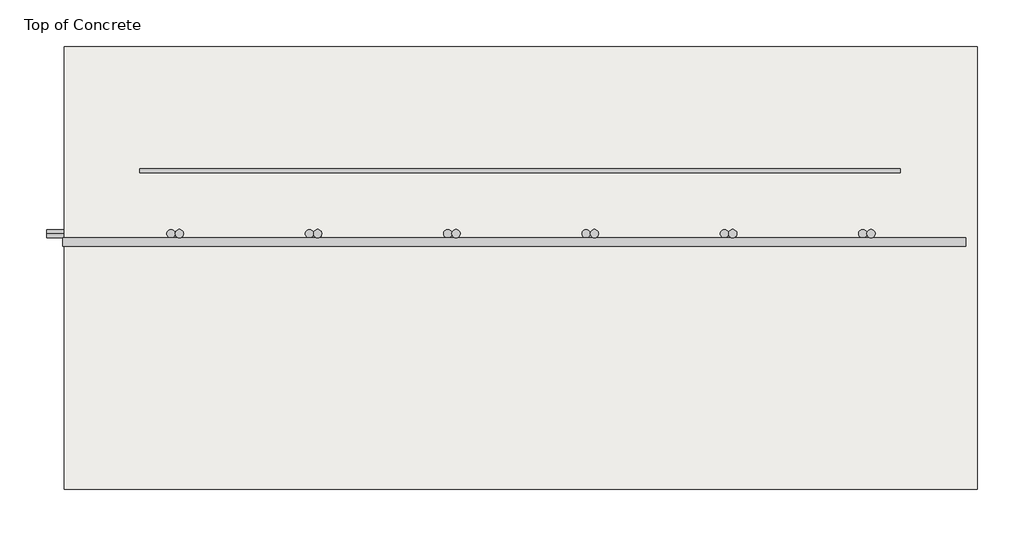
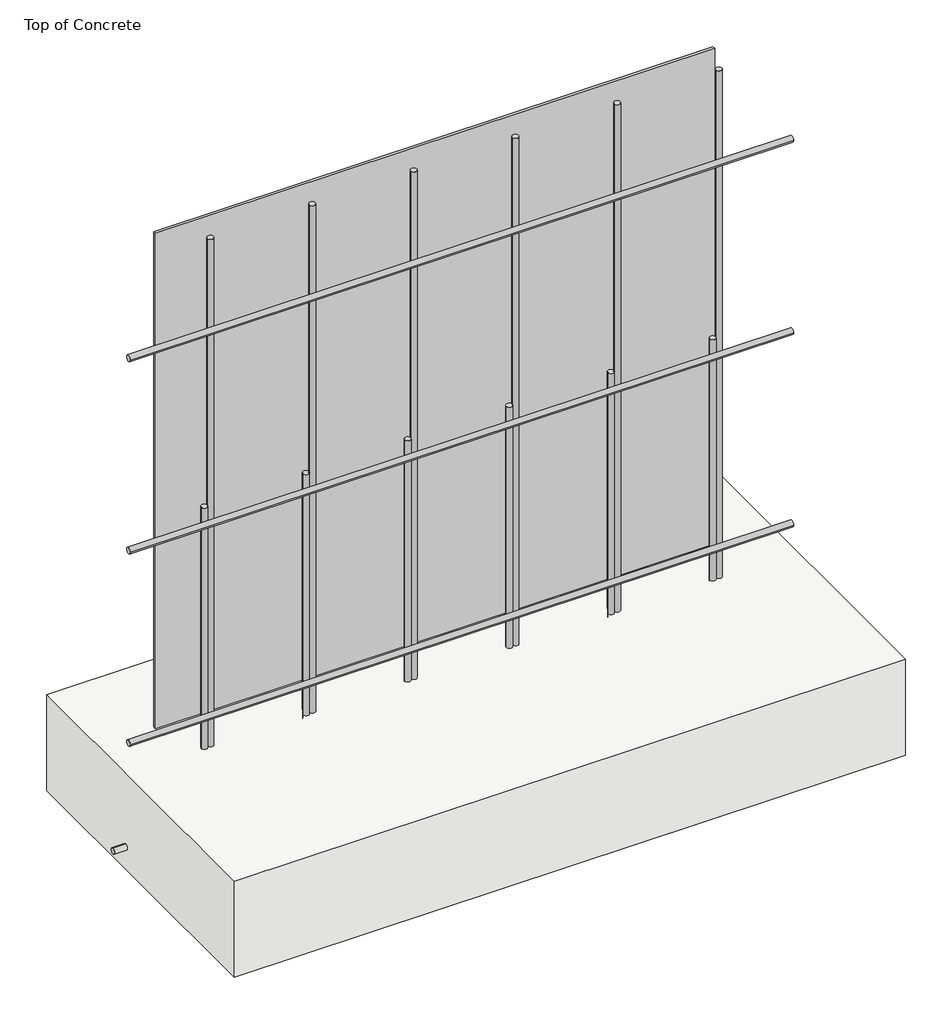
# One storey, incomplete: 16 proxies, 1 slab.
"""IFC4 building model written with IfcOpenShell, lengths in millimetres."""

import ifcopenshell
import ifcopenshell.guid

model = None  # the IFC model being written
_history = None  # IfcOwnerHistory: only IFC2X3 demands one
_inside = {}  # id of a spatial element -> (the spatial element, [elements in it])
_under = {}  # id of a project, library or spatial element -> (it, [spatial elements below it])
_declared = {}  # id of a project -> (the project, [libraries it declares])
_typed = {}  # id of a type object -> (the type object, [elements of that type])
_made_of = {}  # id of a material, layer set ... -> (it, [elements and type objects made of it])


def new_model(schema):
    """Start an empty IFC model of exactly this schema.

    Asked for "IFC4X3", IfcOpenShell would pick the latest addendum, in which some entities
    have other attributes; the version numbers below select the first issue.
    IFC2X3 requires an IfcOwnerHistory on every rooted entity: one is made here for all.
    """
    global model, _history
    if schema == "IFC4X3":
        model = ifcopenshell.file(schema_version=(4, 3, 0, 0))
    else:
        model = ifcopenshell.file(schema=schema)
    _inside.clear()
    _under.clear()
    _declared.clear()
    _typed.clear()
    _made_of.clear()
    _history = None
    if model.schema == "IFC2X3":
        org = make("IfcOrganization", Name="unknown")
        user = make(
            "IfcPersonAndOrganization",
            ThePerson=make("IfcPerson", FamilyName="unknown"),
            TheOrganization=org,
        )
        app = make(
            "IfcApplication",
            ApplicationDeveloper=org,
            Version="unknown",
            ApplicationFullName="unknown",
            ApplicationIdentifier="unknown",
        )
        _history = make(
            "IfcOwnerHistory",
            OwningUser=user,
            OwningApplication=app,
            ChangeAction="ADDED",
            CreationDate=0,
        )
    return model


def make(cls, **values):
    """One entity of the class cls with the attributes given. An attribute that is None is left unset."""
    return model.create_entity(
        cls, **{name: value for name, value in values.items() if value is not None}
    )


def rooted(cls, **values):
    """An entity with a GlobalId (a new one), such as an element, a storey or a relation."""
    return make(cls, GlobalId=ifcopenshell.guid.new(), OwnerHistory=_history, **values)


def si_unit(unit_type, name, prefix=None):
    """IfcSIUnit, for example si_unit("LENGTHUNIT", "METRE", prefix="MILLI")."""
    return make("IfcSIUnit", UnitType=unit_type, Prefix=prefix, Name=name)


def assignment(units):
    """IfcUnitAssignment: the units of a project."""
    return None if units is None else make("IfcUnitAssignment", Units=units)


def point(xyz):
    """IfcCartesianPoint."""
    return None if xyz is None else make("IfcCartesianPoint", Coordinates=xyz)


def direction(xyz):
    """IfcDirection."""
    return None if xyz is None else make("IfcDirection", DirectionRatios=xyz)


def frame(location, z_axis=None, x_axis=None):
    """IfcAxis2Placement3D, a coordinate frame: its origin and axes. An axis left out is left unset."""
    return make(
        "IfcAxis2Placement3D",
        Location=point(location),
        Axis=direction(z_axis),
        RefDirection=direction(x_axis),
    )


def frame_2d(location, x_axis=None):
    """IfcAxis2Placement2D, a coordinate frame in the plane: its origin and x axis."""
    return make(
        "IfcAxis2Placement2D", Location=point(location), RefDirection=direction(x_axis)
    )


def origin():
    """The frame at (0, 0, 0) with its axes left unset."""
    return frame((0.0, 0.0, 0.0))


def origin_with_axes():
    """The frame at (0, 0, 0) with the z axis (0, 0, 1) and the x axis (1, 0, 0) written out."""
    return frame((0.0, 0.0, 0.0), z_axis=(0.0, 0.0, 1.0), x_axis=(1.0, 0.0, 0.0))


def origin_2d():
    """The frame at (0, 0) in the plane with its x axis left unset."""
    return frame_2d((0.0, 0.0))


def place(relative_to, where):
    """IfcLocalPlacement: puts the frame where relative to a parent placement (None: the world)."""
    return make(
        "IfcLocalPlacement", PlacementRelTo=relative_to, RelativePlacement=where
    )


def context(
    kind, dimensions, precision=None, world=None, true_north=None, identifier=None
):
    """IfcGeometricRepresentationContext, for example the 3D "Model" context."""
    return make(
        "IfcGeometricRepresentationContext",
        ContextIdentifier=identifier,
        ContextType=kind,
        CoordinateSpaceDimension=dimensions,
        Precision=precision,
        WorldCoordinateSystem=world,
        TrueNorth=true_north,
    )


def project(units=None, contexts=None):
    """IfcProject with its units and contexts."""
    return rooted(
        "IfcProject",
        Name="project",
        RepresentationContexts=contexts,
        UnitsInContext=assignment(units),
    )


def spatial(cls, under=None, at=None, **own):
    """A site, building, storey or space (cls), placed at a placement, below another one or the project."""
    s = rooted(cls, ObjectPlacement=at, **own)
    if under is not None:
        _under.setdefault(under.id(), (under, []))[1].append(s)
    return s


def polyline(points):
    """IfcPolyline through the points."""
    return make("IfcPolyline", Points=[point(p) for p in points])


def circle_curve(where, radius):
    """IfcCircle in the frame where."""
    return make("IfcCircle", Position=where, Radius=radius)


def ellipse_curve(where, semi_axis1, semi_axis2):
    """IfcEllipse in the frame where."""
    return make(
        "IfcEllipse", Position=where, SemiAxis1=semi_axis1, SemiAxis2=semi_axis2
    )


def trimmed(basis, trim1, trim2, sense, master):
    """IfcTrimmedCurve: the piece of a basis curve between two trims."""
    return make(
        "IfcTrimmedCurve",
        BasisCurve=basis,
        Trim1=trim1,
        Trim2=trim2,
        SenseAgreement=sense,
        MasterRepresentation=master,
    )


def segment(curve, same_sense, transition):
    """IfcCompositeCurveSegment."""
    return make(
        "IfcCompositeCurveSegment",
        Transition=transition,
        SameSense=same_sense,
        ParentCurve=curve,
    )


def composite_curve(segments, self_intersect=None):
    """IfcCompositeCurve: segments joined end to end."""
    return make("IfcCompositeCurve", Segments=segments, SelfIntersect=self_intersect)


def outline(outer, holes=None, kind="AREA"):
    """IfcArbitraryClosedProfileDef: a profile drawn as a closed curve; with holes, ...WithVoids."""
    if holes is None:
        return make("IfcArbitraryClosedProfileDef", ProfileType=kind, OuterCurve=outer)
    return make(
        "IfcArbitraryProfileDefWithVoids",
        ProfileType=kind,
        OuterCurve=outer,
        InnerCurves=holes,
    )


def extrude(swept, where, along, depth):
    """IfcExtrudedAreaSolid: the profile swept, set in the frame where, extruded along a direction by depth."""
    return make(
        "IfcExtrudedAreaSolid",
        SweptArea=swept,
        Position=where,
        ExtrudedDirection=direction(along),
        Depth=depth,
    )


def shape(context_of_items, identifier, shape_type, items):
    """IfcShapeRepresentation: the items that make up one representation, for example the "Body"."""
    return make(
        "IfcShapeRepresentation",
        ContextOfItems=context_of_items,
        RepresentationIdentifier=identifier,
        RepresentationType=shape_type,
        Items=items,
    )


def source(mapping_origin, context_of_items, identifier, shape_type, items):
    """IfcRepresentationMap: a shape defined once, which mapped items show again and again."""
    return make(
        "IfcRepresentationMap",
        MappingOrigin=mapping_origin,
        MappedRepresentation=shape(context_of_items, identifier, shape_type, items),
    )


def transform(
    local_origin,
    x_axis=None,
    y_axis=None,
    z_axis=None,
    scale=None,
    scale2=None,
    scale3=None,
    uniform=True,
):
    """IfcCartesianTransformationOperator3D, or its non-uniform kind. x_axis, y_axis, z_axis: its Axis1, 2, 3."""
    if uniform:
        return make(
            "IfcCartesianTransformationOperator3D",
            Axis1=direction(x_axis),
            Axis2=direction(y_axis),
            LocalOrigin=point(local_origin),
            Scale=scale,
            Axis3=direction(z_axis),
        )
    return make(
        "IfcCartesianTransformationOperator3DnonUniform",
        Axis1=direction(x_axis),
        Axis2=direction(y_axis),
        LocalOrigin=point(local_origin),
        Scale=scale,
        Axis3=direction(z_axis),
        Scale2=scale2,
        Scale3=scale3,
    )


def mapped(mapping_source, mapping_target):
    """IfcMappedItem: shows the shape of a source again, moved by a transform."""
    return make(
        "IfcMappedItem", MappingSource=mapping_source, MappingTarget=mapping_target
    )


def made_of(thing, what):
    """Note that an element or type object is made of a material, layer set ...; save() writes the relation."""
    if what is not None:
        _made_of.setdefault(what.id(), (what, []))[1].append(thing)
    return thing


def element(
    cls,
    number,
    at=None,
    inside=None,
    cuts=None,
    type_object=None,
    material=None,
    context=None,
    identifier="Body",
    shape_type=None,
    held_by="IfcProductDefinitionShape",
    body=None,
    shapes=None,
    **own,
):
    """One element of the class cls, such as IfcWall. Its Tag is "e" and its number.

    at: its placement. inside: the storey or other place that contains it. cuts: it is an
    opening in that element (IfcRelVoidsElement). A single representation is given by context,
    identifier, shape_type and body (its items); several are given by shapes. held_by: the class
    of the entity that holds the representations. save() writes the other relations.
    """
    e = rooted(cls, Tag="e%d" % number, ObjectPlacement=at, **own)
    if body is not None:
        shapes = [shape(context, identifier, shape_type, body)]
    if shapes is not None:
        e.Representation = make(held_by, Representations=shapes)
    if inside is not None:
        _inside.setdefault(inside.id(), (inside, []))[1].append(e)
    if cuts is not None:
        rooted(
            "IfcRelVoidsElement", RelatingBuildingElement=cuts, RelatedOpeningElement=e
        )
    if type_object is not None:
        _typed.setdefault(type_object.id(), (type_object, []))[1].append(e)
    return made_of(e, material)


def aggregate(whole, parts):
    """IfcRelAggregates: a whole, such as a stair, and the parts it consists of."""
    return rooted("IfcRelAggregates", RelatingObject=whole, RelatedObjects=parts)


def save(model, path):
    """Write the relations noted so far, then the file.

    IfcRelAggregates (storeys below a building ...), IfcRelContainedInSpatialStructure (elements
    in a storey), IfcRelDefinesByType, IfcRelAssociatesMaterial and IfcRelDeclares: one each for
    every whole, place, type object, material and project.
    """
    for whole, parts in _under.values():
        aggregate(whole, parts)
    for where, things in _inside.values():
        rooted(
            "IfcRelContainedInSpatialStructure",
            RelatedElements=things,
            RelatingStructure=where,
        )
    for kind, things in _typed.values():
        rooted("IfcRelDefinesByType", RelatedObjects=things, RelatingType=kind)
    for what, things in _made_of.values():
        rooted("IfcRelAssociatesMaterial", RelatedObjects=things, RelatingMaterial=what)
    for by, libraries in _declared.values():
        rooted("IfcRelDeclares", RelatingContext=by, RelatedDefinitions=libraries)
    model.write(path)


def plane_surface(at):
    """IfcPlane: the flat surface through the origin of the frame at, square to its z axis."""
    return make("IfcPlane", Position=at)


def cylinder_surface(at, radius):
    """IfcCylindricalSurface: all points at the distance radius from the z axis of the frame at."""
    return make("IfcCylindricalSurface", Position=at, Radius=radius)


def revolved_surface(curve, axis_point, axis_direction):
    """IfcSurfaceOfRevolution: the curve turned about the line through axis_point along axis_direction."""
    return make(
        "IfcSurfaceOfRevolution",
        SweptCurve=make("IfcArbitraryOpenProfileDef", ProfileType="CURVE", Curve=curve),
        AxisPosition=make("IfcAxis1Placement", Location=point(axis_point), Axis=direction(axis_direction)),
    )


def advanced_brep(points, edges, surfaces, faces):
    """IfcAdvancedBrep: a solid bounded by faces that lie on surfaces and meet in shared edges.

    An edge is (start, end): straight between two places in points (the first is 0);
    or (start, end, curve); or (start, end, curve, False) where it runs against its curve.
    A face is (place in surfaces, loops), or (place, loops, False) where it looks against
    its surface's normal. A loop lists edges by number (the first is 1), with a minus sign
    where the edge is run from its end to its start. The first loop is the outer one.
    """
    corners = [point(p) for p in points]
    vertices = [make("IfcVertexPoint", VertexGeometry=c) for c in corners]
    made = []
    for start, end, *more in edges:
        made.append(
            make(
                "IfcEdgeCurve",
                EdgeStart=vertices[start],
                EdgeEnd=vertices[end],
                EdgeGeometry=more[0] if more else make("IfcPolyline", Points=[corners[start], corners[end]]),
                SameSense=more[1] if len(more) > 1 else True,
            )
        )
    hull = []
    for where, loops, *sense in faces:
        bounds = []
        for j, loop in enumerate(loops):
            ring = [make("IfcOrientedEdge", EdgeElement=made[abs(k) - 1], Orientation=k > 0) for k in loop]
            bounds.append(
                make(
                    "IfcFaceOuterBound" if j == 0 else "IfcFaceBound",
                    Bound=make("IfcEdgeLoop", EdgeList=ring),
                    Orientation=True,
                )
            )
        hull.append(make("IfcAdvancedFace", Bounds=bounds, FaceSurface=surfaces[where], SameSense=sense[0] if sense else True))
    return make("IfcAdvancedBrep", Outer=make("IfcClosedShell", CfsFaces=hull))


def onesteel_rnf_bar_onesteel_rnf_bar_horiz_eb721214(model_context):
    return source(origin(), model_context, "Body", "SweptSolid", [
        extrude(outline(composite_curve([segment(trimmed(circle_curve(origin_2d(), 6.0), [point((-6.0, 0.0))], [point((6.0, 0.0))], False, "CARTESIAN"), True, "CONTINUOUS"), segment(trimmed(circle_curve(origin_2d(), 6.0), [point((6.0, 0.0))], [point((-6.0, 0.0))], False, "CARTESIAN"), True, "CONTINUOUS")], self_intersect=False)), frame((0.0, 0.0, 0.0), z_axis=(1.0, 0.0, 0.0), x_axis=(0.0, 1.0, 0.0)), (0.0, 0.0, 1.0), 1305.0),
    ])


def onesteel_rnf_bar_onesteel_rnf_bar_vert_0c4c5851(model_context):
    return source(origin(), model_context, "Body", "SweptSolid", [
        extrude(outline(composite_curve([segment(trimmed(circle_curve(origin_2d(), 6.0), [point((-6.0, 0.0))], [point((6.0, 0.0))], False, "CARTESIAN"), True, "CONTINUOUS"), segment(trimmed(circle_curve(origin_2d(), 6.0), [point((6.0, 0.0))], [point((-6.0, 0.0))], False, "CARTESIAN"), True, "CONTINUOUS")], self_intersect=False)), frame((0.0, 0.0, 0.0), z_axis=(1.0, 0.0, 0.0), x_axis=(0.0, 1.0, 0.0)), (0.0, 0.0, 1.0), 1055.0),
    ])


def onesteel_rnf_bar_starter_onesteel_rnf_bar_vert_be2ae213(model_context):
    return source(origin(), model_context, "Body", "AdvancedBrep", [
        advanced_brep(
        [(0.0, 6.0, 0.0), (0.0, -6.0, 0.0), (660.0, -180.0, 0.0), (648.0, -180.0, 0.0), (604.0, -6.0, 0.0), (604.0, 6.0, 0.0), (648.0, -50.0, 0.0), (660.0, -50.0, 0.0)],
        [
            (0, 1, circle_curve(frame((0.0, 0.0, 0.0), z_axis=(-1.0, 0.0, 0.0), x_axis=(0.0, -1.0, 0.0)), 6.0)),
            (1, 0, circle_curve(frame((0.0, 0.0, 0.0), z_axis=(-1.0, 0.0, 0.0), x_axis=(0.0, -1.0, 0.0)), 6.0)),
            (2, 3, circle_curve(frame((654.0, -180.0, 0.0), z_axis=(0.0, -1.0, 0.0), x_axis=(-1.0, 0.0, 0.0)), 6.0)),
            (3, 2, circle_curve(frame((654.0, -180.0, 0.0), z_axis=(0.0, -1.0, 0.0), x_axis=(-1.0, 0.0, 0.0)), 6.0)),
            (1, 4),
            (4, 5, circle_curve(frame((604.0, 0.0, 0.0), z_axis=(-1.0, 0.0, 0.0), x_axis=(0.0, -1.0, 0.0)), 6.0)),
            (5, 0),
            (5, 4, circle_curve(frame((604.0, 0.0, 0.0), z_axis=(-1.0, 0.0, 0.0), x_axis=(0.0, -1.0, 0.0)), 6.0)),
            (6, 7, circle_curve(frame((654.0, -50.0, 0.0), z_axis=(0.0, 1.0, 0.0), x_axis=(-1.0, 0.0, 0.0)), 6.0)),
            (7, 5, circle_curve(frame((604.0, -50.0, 0.0), z_axis=(0.0, 0.0, 1.0), x_axis=(0.0, 1.0, 0.0)), 56.0)),
            (4, 6, circle_curve(frame((604.0, -50.0, 0.0), z_axis=(0.0, 0.0, -1.0), x_axis=(0.0, 1.0, 0.0)), 44.0)),
            (7, 6, circle_curve(frame((654.0, -50.0, 0.0), z_axis=(0.0, 1.0, 0.0), x_axis=(-1.0, 0.0, 0.0)), 6.0)),
            (6, 3),
            (2, 7),
        ],
        [
            plane_surface(frame((0.0, 0.0, 0.0), z_axis=(-1.0, 0.0, 0.0), x_axis=(0.0, 0.0, 1.0))),
            plane_surface(frame((654.0, -180.0, 0.0), z_axis=(0.0, -1.0, 0.0), x_axis=(0.0, 0.0, 1.0))),
            cylinder_surface(frame((0.0, 0.0, 0.0), z_axis=(-1.0, 0.0, 0.0), x_axis=(0.0, -1.0, 0.0)), 6.0),
            revolved_surface(trimmed(ellipse_curve(frame((604.0, 0.0, 0.0), z_axis=(1.0, 0.0, 0.0), x_axis=(0.0, -1.0, 0.0)), 6.0, 6.0), [point((604.0, 6.0, 0.0))], [point((604.0, -6.0, 0.0))], True, "CARTESIAN"), (604.0, -50.0, 0.0), (0.0, 0.0, 1.0)),
            revolved_surface(trimmed(ellipse_curve(frame((604.0, 0.0, 0.0), z_axis=(1.0, 0.0, 0.0), x_axis=(0.0, -1.0, 0.0)), 6.0, 6.0), [point((604.0, -6.0, 0.0))], [point((604.0, 6.0, 0.0))], True, "CARTESIAN"), (604.0, -50.0, 0.0), (0.0, 0.0, 1.0)),
            cylinder_surface(frame((654.0, -50.0, 0.0), z_axis=(0.0, 1.0, 0.0), x_axis=(-1.0, 0.0, 0.0)), 6.0),
        ],
        [
            (0, [[1, 2]]),
            (1, [[3, 4]]),
            (2, [[5, 6, 7, -2]]),
            (2, [[-7, 8, -5, -1]]),
            (3, [[9, 10, -6, 11]]),
            (4, [[12, -11, -8, -10]]),
            (5, [[13, -3, 14, -9]]),
            (5, [[-14, -4, -13, -12]]),
        ],
    ),
    ])


model = new_model("IFC4")

# Units and contexts
model_context = context("Model", 3, world=origin())
ifc_project = project(units=[si_unit("LENGTHUNIT", "METRE", prefix="MILLI")], contexts=[model_context])

# Site, building, storey
site = spatial("IfcSite", under=ifc_project)
building = spatial("IfcBuilding", under=site)
storey = spatial("IfcBuildingStorey", under=building, Name="Top of Concrete", Elevation=0.0)

# Proxies
placement = place(None, origin())
element("IfcBuildingElementProxy", 1, Name="CSR-Sheet : Cemintel 6mm", ObjectType="CSR-Sheet : Cemintel 6mm", at=placement, inside=storey, context=model_context, shape_type="SweptSolid", body=[
    extrude(outline(polyline([(-7812.6872823, 7698.2382122), (-7812.6872823, 7692.2382122), (-8912.6872823, 7692.2382122), (-8912.6872823, 7698.2382122), (-7812.6872823, 7698.2382122)])), origin_with_axes(), (0.0, 0.0, 1.0), 1030.0),
])
onesteel_rnf_bar_onesteel_rnf_bar_horiz_shape = onesteel_rnf_bar_onesteel_rnf_bar_horiz_eb721214(model_context)
element("IfcBuildingElementProxy", 2, Name="OneSteel-RNF-Bar : OneSteel-RNF-Bar-Horiz", ObjectType="OneSteel-RNF-Bar : OneSteel-RNF-Bar-Horiz", at=placement, inside=storey, context=model_context, shape_type="MappedRepresentation", body=[
    mapped(onesteel_rnf_bar_onesteel_rnf_bar_horiz_shape, transform((-9023.4055132, 7592.2382122, 69.6476103), x_axis=(1.0, 0.0, 0.0), y_axis=(0.0, 1.0, 0.0), z_axis=(0.0, 0.0, 1.0))),
])
element("IfcBuildingElementProxy", 3, Name="OneSteel-RNF-Bar : OneSteel-RNF-Bar-Horiz", ObjectType="OneSteel-RNF-Bar : OneSteel-RNF-Bar-Horiz", at=placement, inside=storey, context=model_context, shape_type="MappedRepresentation", body=[
    mapped(onesteel_rnf_bar_onesteel_rnf_bar_horiz_shape, transform((-9023.4055132, 7592.2382122, 469.6476103), x_axis=(1.0, 0.0, 0.0), y_axis=(0.0, 1.0, 0.0), z_axis=(0.0, 0.0, 1.0))),
])
element("IfcBuildingElementProxy", 4, Name="OneSteel-RNF-Bar : OneSteel-RNF-Bar-Horiz", ObjectType="OneSteel-RNF-Bar : OneSteel-RNF-Bar-Horiz", at=placement, inside=storey, context=model_context, shape_type="MappedRepresentation", body=[
    mapped(onesteel_rnf_bar_onesteel_rnf_bar_horiz_shape, transform((-9023.4055132, 7592.2382122, 869.6476103), x_axis=(1.0, 0.0, 0.0), y_axis=(0.0, 1.0, 0.0), z_axis=(0.0, 0.0, 1.0))),
])
onesteel_rnf_bar_onesteel_rnf_bar_vert_shape = onesteel_rnf_bar_onesteel_rnf_bar_vert_0c4c5851(model_context)
element("IfcBuildingElementProxy", 5, Name="OneSteel-RNF-Bar : OneSteel-RNF-Bar-Vert", ObjectType="OneSteel-RNF-Bar : OneSteel-RNF-Bar-Vert", at=placement, inside=storey, context=model_context, shape_type="MappedRepresentation", body=[
    mapped(onesteel_rnf_bar_onesteel_rnf_bar_vert_shape, transform((-8455.1872823, 7604.2382122, 0.0), x_axis=(0.0, 0.0, 1.0), y_axis=(1.0, 0.0, 0.0), z_axis=(0.0, 1.0, 0.0))),
])
element("IfcBuildingElementProxy", 6, Name="OneSteel-RNF-Bar : OneSteel-RNF-Bar-Vert", ObjectType="OneSteel-RNF-Bar : OneSteel-RNF-Bar-Vert", at=placement, inside=storey, context=model_context, shape_type="MappedRepresentation", body=[
    mapped(onesteel_rnf_bar_onesteel_rnf_bar_vert_shape, transform((-8655.1872823, 7604.2382122, 0.0), x_axis=(0.0, 0.0, 1.0), y_axis=(1.0, 0.0, 0.0), z_axis=(0.0, 1.0, 0.0))),
])
element("IfcBuildingElementProxy", 7, Name="OneSteel-RNF-Bar : OneSteel-RNF-Bar-Vert", ObjectType="OneSteel-RNF-Bar : OneSteel-RNF-Bar-Vert", at=placement, inside=storey, context=model_context, shape_type="MappedRepresentation", body=[
    mapped(onesteel_rnf_bar_onesteel_rnf_bar_vert_shape, transform((-8855.1872823, 7604.2382122, 0.0), x_axis=(0.0, 0.0, 1.0), y_axis=(1.0, 0.0, 0.0), z_axis=(0.0, 1.0, 0.0))),
])
element("IfcBuildingElementProxy", 8, Name="OneSteel-RNF-Bar : OneSteel-RNF-Bar-Vert", ObjectType="OneSteel-RNF-Bar : OneSteel-RNF-Bar-Vert", at=placement, inside=storey, context=model_context, shape_type="MappedRepresentation", body=[
    mapped(onesteel_rnf_bar_onesteel_rnf_bar_vert_shape, transform((-8255.1872823, 7604.2382122, 0.0), x_axis=(0.0, 0.0, 1.0), y_axis=(1.0, 0.0, 0.0), z_axis=(0.0, 1.0, 0.0))),
])
element("IfcBuildingElementProxy", 9, Name="OneSteel-RNF-Bar : OneSteel-RNF-Bar-Vert", ObjectType="OneSteel-RNF-Bar : OneSteel-RNF-Bar-Vert", at=placement, inside=storey, context=model_context, shape_type="MappedRepresentation", body=[
    mapped(onesteel_rnf_bar_onesteel_rnf_bar_vert_shape, transform((-8055.1872823, 7604.2382122, 0.0), x_axis=(0.0, 0.0, 1.0), y_axis=(1.0, 0.0, 0.0), z_axis=(0.0, 1.0, 0.0))),
])
element("IfcBuildingElementProxy", 10, Name="OneSteel-RNF-Bar : OneSteel-RNF-Bar-Vert", ObjectType="OneSteel-RNF-Bar : OneSteel-RNF-Bar-Vert", at=placement, inside=storey, context=model_context, shape_type="MappedRepresentation", body=[
    mapped(onesteel_rnf_bar_onesteel_rnf_bar_vert_shape, transform((-7855.1872823, 7604.2382122, 0.0), x_axis=(0.0, 0.0, 1.0), y_axis=(1.0, 0.0, 0.0), z_axis=(0.0, 1.0, 0.0))),
])
onesteel_rnf_bar_starter_onesteel_rnf_bar_vert_shape = onesteel_rnf_bar_starter_onesteel_rnf_bar_vert_be2ae213(model_context)
element("IfcBuildingElementProxy", 11, Name="OneSteel-RNF-Bar Starter : OneSteel-RNF-Bar-Vert", ObjectType="OneSteel-RNF-Bar Starter : OneSteel-RNF-Bar-Vert", at=placement, inside=storey, context=model_context, shape_type="MappedRepresentation", body=[
    mapped(onesteel_rnf_bar_starter_onesteel_rnf_bar_vert_shape, transform((-8867.1872823, 7604.2382122, 500.0), x_axis=(0.0, 0.0, -1.0), y_axis=(1.0, 0.0, 0.0), z_axis=(0.0, -1.0, 0.0))),
])
element("IfcBuildingElementProxy", 12, Name="OneSteel-RNF-Bar Starter : OneSteel-RNF-Bar-Vert", ObjectType="OneSteel-RNF-Bar Starter : OneSteel-RNF-Bar-Vert", at=placement, inside=storey, context=model_context, shape_type="MappedRepresentation", body=[
    mapped(onesteel_rnf_bar_starter_onesteel_rnf_bar_vert_shape, transform((-8667.1872823, 7604.2382122, 500.0), x_axis=(0.0, 0.0, -1.0), y_axis=(1.0, 0.0, 0.0), z_axis=(0.0, -1.0, 0.0))),
])
element("IfcBuildingElementProxy", 13, Name="OneSteel-RNF-Bar Starter : OneSteel-RNF-Bar-Vert", ObjectType="OneSteel-RNF-Bar Starter : OneSteel-RNF-Bar-Vert", at=placement, inside=storey, context=model_context, shape_type="MappedRepresentation", body=[
    mapped(onesteel_rnf_bar_starter_onesteel_rnf_bar_vert_shape, transform((-8467.1872823, 7604.2382122, 500.0), x_axis=(0.0, 0.0, -1.0), y_axis=(1.0, 0.0, 0.0), z_axis=(0.0, -1.0, 0.0))),
])
element("IfcBuildingElementProxy", 14, Name="OneSteel-RNF-Bar Starter : OneSteel-RNF-Bar-Vert", ObjectType="OneSteel-RNF-Bar Starter : OneSteel-RNF-Bar-Vert", at=placement, inside=storey, context=model_context, shape_type="MappedRepresentation", body=[
    mapped(onesteel_rnf_bar_starter_onesteel_rnf_bar_vert_shape, transform((-8267.1872823, 7604.2382122, 500.0), x_axis=(0.0, 0.0, -1.0), y_axis=(1.0, 0.0, 0.0), z_axis=(0.0, -1.0, 0.0))),
])
element("IfcBuildingElementProxy", 15, Name="OneSteel-RNF-Bar Starter : OneSteel-RNF-Bar-Vert", ObjectType="OneSteel-RNF-Bar Starter : OneSteel-RNF-Bar-Vert", at=placement, inside=storey, context=model_context, shape_type="MappedRepresentation", body=[
    mapped(onesteel_rnf_bar_starter_onesteel_rnf_bar_vert_shape, transform((-8067.1872823, 7604.2382122, 500.0), x_axis=(0.0, 0.0, -1.0), y_axis=(1.0, 0.0, 0.0), z_axis=(0.0, -1.0, 0.0))),
])
element("IfcBuildingElementProxy", 16, Name="OneSteel-RNF-Bar Starter : OneSteel-RNF-Bar-Vert", ObjectType="OneSteel-RNF-Bar Starter : OneSteel-RNF-Bar-Vert", at=placement, inside=storey, context=model_context, shape_type="MappedRepresentation", body=[
    mapped(onesteel_rnf_bar_starter_onesteel_rnf_bar_vert_shape, transform((-7867.1872823, 7604.2382122, 500.0), x_axis=(0.0, 0.0, -1.0), y_axis=(1.0, 0.0, 0.0), z_axis=(0.0, -1.0, 0.0))),
])

# Slab
element("IfcSlab", 17, ObjectType="afs 200mm", at=placement, inside=storey, context=model_context, shape_type="SweptSolid", body=[
    extrude(outline(polyline([(-7701.3620885, 7874.8744822), (-7701.3620885, 7234.8744822), (-9021.3620885, 7234.8744822), (-9021.3620885, 7874.8744822), (-7701.3620885, 7874.8744822)])), frame((0.0, 0.0, -202.0), z_axis=(0.0, 0.0, 1.0), x_axis=(1.0, 0.0, 0.0)), (0.0, 0.0, 1.0), 200.0),
])

save(model, "model.ifc")
